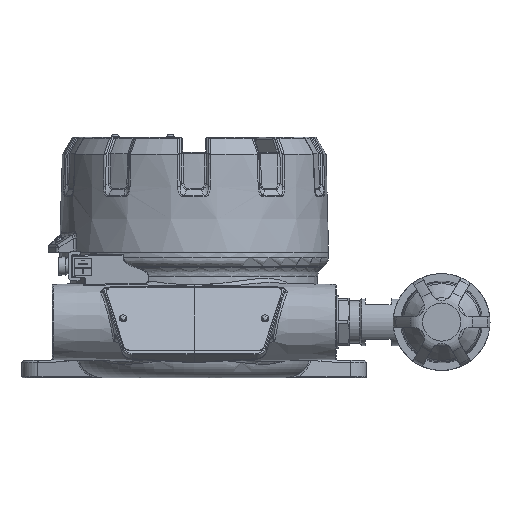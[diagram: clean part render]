
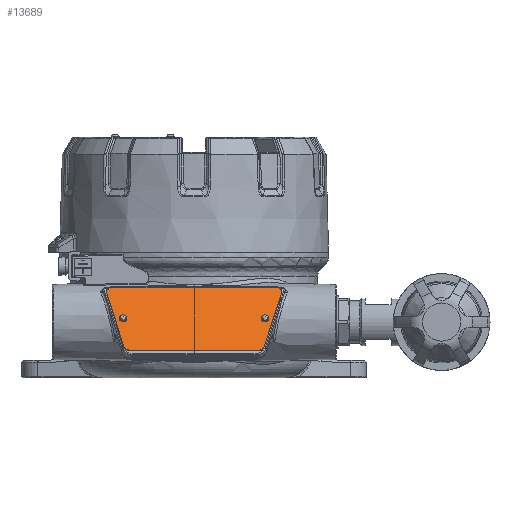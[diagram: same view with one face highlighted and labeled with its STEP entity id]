
A CAD part, front view. The second image highlights one B-rep face of the part: STEP entity #13689.
In plain terms, the highlighted planar face has unit normal (0, -0.819, 0.574).
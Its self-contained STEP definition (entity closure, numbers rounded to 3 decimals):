
#13689=ADVANCED_FACE('',(#61961,#61963,#61965),#61967,.T.);
#61961=FACE_BOUND('',#61962,.T.);
#61962=EDGE_LOOP('',(#71634,#71635,#71636,#71637,#71638,#71639,#71640,#71641));
#61963=FACE_BOUND('',#61964,.T.);
#61964=EDGE_LOOP('',(#71642));
#61965=FACE_BOUND('',#61966,.T.);
#61966=EDGE_LOOP('',(#71643));
#61967=PLANE('',#61968);
#61968=AXIS2_PLACEMENT_3D('',#61969,#61970,#61971);
#61969=CARTESIAN_POINT('',(0.,-72.568,27.683));
#61970=DIRECTION('',(0.,-0.819,0.574));
#61971=DIRECTION('',(-1.,0.,0.));
#71634=ORIENTED_EDGE('',*,*,#76624,.T.);
#71635=ORIENTED_EDGE('',*,*,#76625,.T.);
#71636=ORIENTED_EDGE('',*,*,#76626,.T.);
#71637=ORIENTED_EDGE('',*,*,#76627,.T.);
#71638=ORIENTED_EDGE('',*,*,#76628,.T.);
#71639=ORIENTED_EDGE('',*,*,#76629,.T.);
#71640=ORIENTED_EDGE('',*,*,#76630,.T.);
#71641=ORIENTED_EDGE('',*,*,#76631,.T.);
#71642=ORIENTED_EDGE('',*,*,#76632,.T.);
#71643=ORIENTED_EDGE('',*,*,#76633,.T.);
#76624=EDGE_CURVE('',#83131,#83132,#83133,.T.);
#76625=EDGE_CURVE('',#83132,#83134,#83135,.T.);
#76626=EDGE_CURVE('',#83134,#83136,#83137,.T.);
#76627=EDGE_CURVE('',#83136,#83138,#83139,.T.);
#76628=EDGE_CURVE('',#83138,#83140,#83141,.T.);
#76629=EDGE_CURVE('',#83140,#83142,#83143,.T.);
#76630=EDGE_CURVE('',#83142,#83144,#83145,.T.);
#76631=EDGE_CURVE('',#83144,#83131,#83146,.T.);
#76632=EDGE_CURVE('',#83147,#83147,#83148,.F.);
#76633=EDGE_CURVE('',#83149,#83149,#83150,.F.);
#83131=VERTEX_POINT('',#122893);
#83132=VERTEX_POINT('',#122894);
#83133=LINE('',#122895,#122896);
#83134=VERTEX_POINT('',#122898);
#83135=CIRCLE('',#122899,3.);
#83136=VERTEX_POINT('',#122903);
#83137=LINE('',#122904,#122905);
#83138=VERTEX_POINT('',#122907);
#83139=CIRCLE('',#122908,3.);
#83140=VERTEX_POINT('',#122912);
#83141=LINE('',#122913,#122914);
#83142=VERTEX_POINT('',#122916);
#83143=CIRCLE('',#122917,3.);
#83144=VERTEX_POINT('',#122921);
#83145=LINE('',#122922,#122923);
#83146=CIRCLE('',#122925,3.);
#83147=VERTEX_POINT('',#122929);
#83148=CIRCLE('',#122930,1.25);
#83149=VERTEX_POINT('',#122934);
#83150=CIRCLE('',#122935,1.25);
#122893=CARTESIAN_POINT('',(32.596,-81.617,14.76));
#122894=CARTESIAN_POINT('',(40.634,-64.41,39.334));
#122895=CARTESIAN_POINT('',(32.596,-81.617,14.76));
#122896=VECTOR('',#122897,1.);
#122897=DIRECTION('',(0.259,0.554,0.791));
#122898=CARTESIAN_POINT('',(37.736,-62.244,42.428));
#122899=AXIS2_PLACEMENT_3D('',#122900,#122901,#122902);
#122900=CARTESIAN_POINT('',(37.736,-63.965,39.97));
#122901=DIRECTION('',(0.,-0.819,0.574));
#122902=DIRECTION('',(0.966,-0.148,-0.212));
#122903=CARTESIAN_POINT('',(-37.736,-62.244,42.428));
#122904=CARTESIAN_POINT('',(37.736,-62.244,42.428));
#122905=VECTOR('',#122906,1.);
#122906=DIRECTION('',(-1.,0.,0.));
#122907=CARTESIAN_POINT('',(-40.634,-64.41,39.334));
#122908=AXIS2_PLACEMENT_3D('',#122909,#122910,#122911);
#122909=CARTESIAN_POINT('',(-37.736,-63.965,39.97));
#122910=DIRECTION('',(0.,-0.819,0.574));
#122911=DIRECTION('',(0.,0.574,0.819));
#122912=CARTESIAN_POINT('',(-32.596,-81.617,14.76));
#122913=CARTESIAN_POINT('',(-40.634,-64.41,39.334));
#122914=VECTOR('',#122915,1.);
#122915=DIRECTION('',(0.259,-0.554,-0.791));
#122916=CARTESIAN_POINT('',(-29.698,-82.893,12.938));
#122917=AXIS2_PLACEMENT_3D('',#122918,#122919,#122920);
#122918=CARTESIAN_POINT('',(-29.698,-81.172,15.396));
#122919=DIRECTION('',(0.,-0.819,0.574));
#122920=DIRECTION('',(-0.966,-0.148,-0.212));
#122921=CARTESIAN_POINT('',(29.698,-82.893,12.938));
#122922=CARTESIAN_POINT('',(-29.698,-82.893,12.938));
#122923=VECTOR('',#122924,1.);
#122924=DIRECTION('',(1.,0.,0.));
#122925=AXIS2_PLACEMENT_3D('',#122926,#122927,#122928);
#122926=CARTESIAN_POINT('',(29.698,-81.172,15.396));
#122927=DIRECTION('',(0.,-0.819,0.574));
#122928=DIRECTION('',(0.,-0.574,-0.819));
#122929=CARTESIAN_POINT('',(31.75,-72.568,27.683));
#122930=AXIS2_PLACEMENT_3D('',#122931,#122932,#122933);
#122931=CARTESIAN_POINT('',(33.,-72.568,27.683));
#122932=DIRECTION('',(0.,-0.819,0.574));
#122933=DIRECTION('',(-1.,0.,0.));
#122934=CARTESIAN_POINT('',(-31.75,-72.568,27.683));
#122935=AXIS2_PLACEMENT_3D('',#122936,#122937,#122938);
#122936=CARTESIAN_POINT('',(-33.,-72.568,27.683));
#122937=DIRECTION('',(0.,-0.819,0.574));
#122938=DIRECTION('',(1.,0.,0.));
